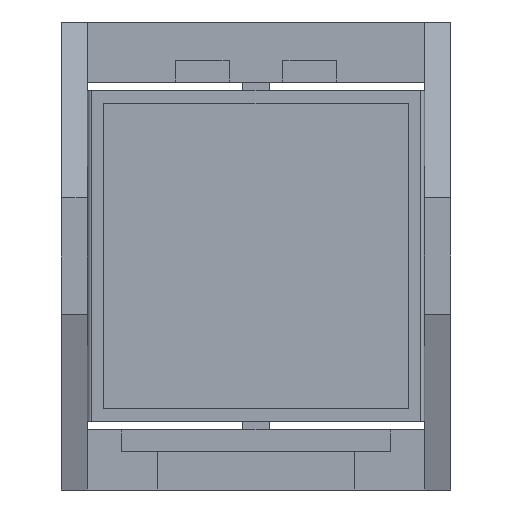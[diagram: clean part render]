
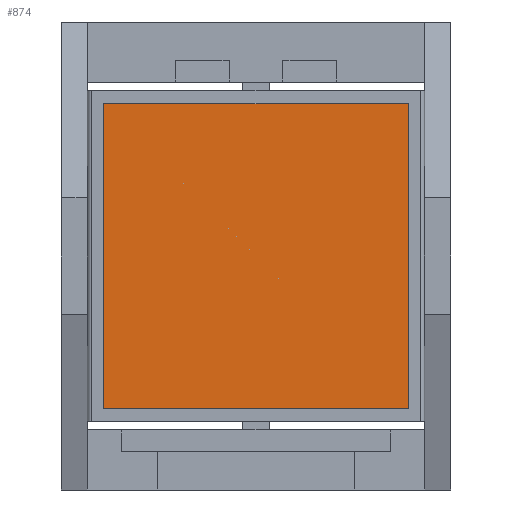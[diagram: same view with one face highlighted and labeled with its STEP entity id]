
A CAD part, front view. The second image highlights one B-rep face of the part: STEP entity #874.
In plain terms, the highlighted planar face has unit normal (0, -1, 0).
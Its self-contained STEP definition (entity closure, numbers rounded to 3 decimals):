
#83 = EDGE_LOOP ( 'NONE', ( #4794, #5359, #5207, #2814 ) ) ;
#240 = VECTOR ( 'NONE', #3263, 1000. ) ;
#380 = EDGE_CURVE ( 'NONE', #3219, #5775, #3541, .T. ) ;
#827 = VECTOR ( 'NONE', #3062, 1000. ) ;
#874 = ADVANCED_FACE ( 'NONE', ( #4503 ), #6532, .F. ) ;
#1260 = CARTESIAN_POINT ( 'NONE',  ( 7.989, -2.481, -6.631 ) ) ;
#1674 = DIRECTION ( 'NONE',  ( 0., 0., 1. ) ) ;
#2298 = CARTESIAN_POINT ( 'NONE',  ( -9.011, -2.481, -6.631 ) ) ;
#2332 = DIRECTION ( 'NONE',  ( 0., 0., 1. ) ) ;
#2442 = VERTEX_POINT ( 'NONE', #1260 ) ;
#2609 = LINE ( 'NONE', #4602, #827 ) ;
#2814 = ORIENTED_EDGE ( 'NONE', *, *, #380, .F. ) ;
#2857 = AXIS2_PLACEMENT_3D ( 'NONE', #4604, #5612, #1674 ) ;
#2974 = EDGE_CURVE ( 'NONE', #5775, #2442, #3356, .T. ) ;
#3062 = DIRECTION ( 'NONE',  ( -1., 0., 0. ) ) ;
#3148 = VECTOR ( 'NONE', #3504, 1000. ) ;
#3219 = VERTEX_POINT ( 'NONE', #3759 ) ;
#3263 = DIRECTION ( 'NONE',  ( 0., 0., -1. ) ) ;
#3356 = LINE ( 'NONE', #4773, #240 ) ;
#3504 = DIRECTION ( 'NONE',  ( 1., 0., 0. ) ) ;
#3541 = LINE ( 'NONE', #4109, #3148 ) ;
#3759 = CARTESIAN_POINT ( 'NONE',  ( -9.011, -2.481, 10.369 ) ) ;
#4109 = CARTESIAN_POINT ( 'NONE',  ( -9.011, -2.481, 10.369 ) ) ;
#4503 = FACE_OUTER_BOUND ( 'NONE', #83, .T. ) ;
#4602 = CARTESIAN_POINT ( 'NONE',  ( -9.011, -2.481, -6.631 ) ) ;
#4604 = CARTESIAN_POINT ( 'NONE',  ( -9.011, -2.481, 10.369 ) ) ;
#4773 = CARTESIAN_POINT ( 'NONE',  ( 7.989, -2.481, -6.631 ) ) ;
#4794 = ORIENTED_EDGE ( 'NONE', *, *, #4905, .F. ) ;
#4814 = LINE ( 'NONE', #2298, #5281 ) ;
#4905 = EDGE_CURVE ( 'NONE', #4994, #3219, #4814, .T. ) ;
#4951 = CARTESIAN_POINT ( 'NONE',  ( 7.989, -2.481, 10.369 ) ) ;
#4994 = VERTEX_POINT ( 'NONE', #5457 ) ;
#5207 = ORIENTED_EDGE ( 'NONE', *, *, #2974, .F. ) ;
#5281 = VECTOR ( 'NONE', #2332, 1000. ) ;
#5341 = EDGE_CURVE ( 'NONE', #2442, #4994, #2609, .T. ) ;
#5359 = ORIENTED_EDGE ( 'NONE', *, *, #5341, .F. ) ;
#5457 = CARTESIAN_POINT ( 'NONE',  ( -9.011, -2.481, -6.631 ) ) ;
#5612 = DIRECTION ( 'NONE',  ( 0., 1., 0. ) ) ;
#5775 = VERTEX_POINT ( 'NONE', #4951 ) ;
#6532 = PLANE ( 'NONE',  #2857 ) ;
